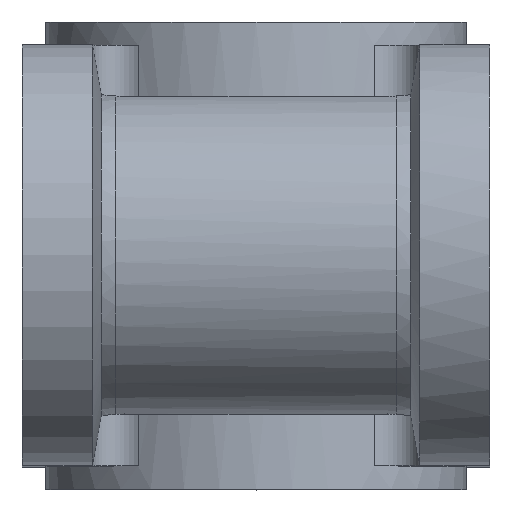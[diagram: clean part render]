
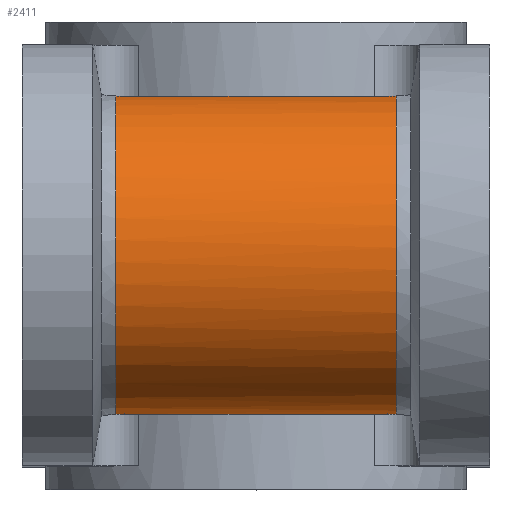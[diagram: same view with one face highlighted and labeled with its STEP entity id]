
A CAD part, top view. The second image highlights one B-rep face of the part: STEP entity #2411.
In plain terms, the highlighted cylindrical face has radius 2.75 mm (diameter 5.5 mm), a partial arc.
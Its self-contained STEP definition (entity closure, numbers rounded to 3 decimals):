
#143=B_SPLINE_CURVE_WITH_KNOTS('',3,(#3353,#3354,#3355,#3356),
 .UNSPECIFIED.,.F.,.F.,(4,4),(0.,0.),.UNSPECIFIED.);
#149=B_SPLINE_CURVE_WITH_KNOTS('',3,(#3393,#3394,#3395,#3396),
 .UNSPECIFIED.,.F.,.F.,(4,4),(0.,0.),.UNSPECIFIED.);
#151=B_SPLINE_CURVE_WITH_KNOTS('',3,(#3407,#3408,#3409,#3410),
 .UNSPECIFIED.,.F.,.F.,(4,4),(0.,0.),.UNSPECIFIED.);
#157=B_SPLINE_CURVE_WITH_KNOTS('',3,(#3448,#3449,#3450,#3451),
 .UNSPECIFIED.,.F.,.F.,(4,4),(0.,0.),.UNSPECIFIED.);
#204=B_SPLINE_CURVE_WITH_KNOTS('',3,(#4272,#4273,#4274,#4275,#4276,#4277,
#4278),.UNSPECIFIED.,.F.,.F.,(4,1,1,1,4),(0.031,0.195,
0.359,0.523,0.686),.UNSPECIFIED.);
#209=B_SPLINE_CURVE_WITH_KNOTS('',3,(#4300,#4301,#4302,#4303,#4304,#4305,
#4306),.UNSPECIFIED.,.F.,.F.,(4,1,1,1,4),(0.313,0.477,
0.641,0.805,0.969),.UNSPECIFIED.);
#274=CYLINDRICAL_SURFACE('',#2669,2.75);
#971=ORIENTED_EDGE('',*,*,#998,.F.);
#972=ORIENTED_EDGE('',*,*,#995,.T.);
#973=ORIENTED_EDGE('',*,*,#1008,.T.);
#974=ORIENTED_EDGE('',*,*,#1350,.F.);
#975=ORIENTED_EDGE('',*,*,#1011,.T.);
#976=ORIENTED_EDGE('',*,*,#1024,.T.);
#977=ORIENTED_EDGE('',*,*,#1021,.T.);
#978=ORIENTED_EDGE('',*,*,#1345,.F.);
#995=EDGE_CURVE('',#1354,#1353,#1593,.F.);
#998=EDGE_CURVE('',#1354,#1356,#143,.T.);
#1008=EDGE_CURVE('',#1353,#1362,#149,.T.);
#1011=EDGE_CURVE('',#1366,#1365,#151,.T.);
#1021=EDGE_CURVE('',#1374,#1373,#157,.T.);
#1024=EDGE_CURVE('',#1365,#1374,#1606,.T.);
#1345=EDGE_CURVE('',#1356,#1373,#204,.T.);
#1350=EDGE_CURVE('',#1366,#1362,#209,.T.);
#1353=VERTEX_POINT('',#3342);
#1354=VERTEX_POINT('',#3344);
#1356=VERTEX_POINT('',#3357);
#1362=VERTEX_POINT('',#3392);
#1365=VERTEX_POINT('',#3406);
#1366=VERTEX_POINT('',#3411);
#1373=VERTEX_POINT('',#3447);
#1374=VERTEX_POINT('',#3452);
#1593=LINE('',#3343,#1765);
#1606=LINE('',#3456,#1778);
#1765=VECTOR('',#2678,1000.);
#1778=VECTOR('',#2705,1000.);
#2080=EDGE_LOOP('',(#971,#972,#973,#974,#975,#976,#977,#978));
#2228=FACE_BOUND('',#2080,.T.);
#2411=ADVANCED_FACE('',(#2228),#274,.T.);
#2669=AXIS2_PLACEMENT_3D('',#4307,#3330,#3331);
#2678=DIRECTION('',(1.,0.,0.));
#2705=DIRECTION('',(1.,0.,0.));
#3330=DIRECTION('',(1.,0.,0.));
#3331=DIRECTION('',(0.,0.,1.));
#3342=CARTESIAN_POINT('',(-2.248,6.721,8.4));
#3343=CARTESIAN_POINT('',(-3.6,6.721,8.4));
#3344=CARTESIAN_POINT('',(2.251,6.721,8.4));
#3353=CARTESIAN_POINT('',(2.251,6.721,8.4));
#3354=CARTESIAN_POINT('',(2.303,6.721,8.4));
#3355=CARTESIAN_POINT('',(2.352,6.722,8.39));
#3356=CARTESIAN_POINT('',(2.4,6.725,8.371));
#3357=CARTESIAN_POINT('',(2.4,6.725,8.371));
#3392=CARTESIAN_POINT('',(-2.4,6.725,8.37));
#3393=CARTESIAN_POINT('',(-2.248,6.721,8.4));
#3394=CARTESIAN_POINT('',(-2.301,6.721,8.4));
#3395=CARTESIAN_POINT('',(-2.351,6.722,8.39));
#3396=CARTESIAN_POINT('',(-2.4,6.725,8.37));
#3406=CARTESIAN_POINT('',(-2.248,1.279,8.4));
#3407=CARTESIAN_POINT('',(-2.4,1.275,8.37));
#3408=CARTESIAN_POINT('',(-2.351,1.278,8.39));
#3409=CARTESIAN_POINT('',(-2.301,1.279,8.4));
#3410=CARTESIAN_POINT('',(-2.248,1.279,8.4));
#3411=CARTESIAN_POINT('',(-2.4,1.275,8.37));
#3447=CARTESIAN_POINT('',(2.4,1.275,8.371));
#3448=CARTESIAN_POINT('',(2.251,1.279,8.4));
#3449=CARTESIAN_POINT('',(2.303,1.279,8.4));
#3450=CARTESIAN_POINT('',(2.352,1.278,8.39));
#3451=CARTESIAN_POINT('',(2.4,1.275,8.371));
#3452=CARTESIAN_POINT('',(2.251,1.279,8.4));
#3456=CARTESIAN_POINT('',(-3.6,1.279,8.4));
#4272=CARTESIAN_POINT('',(2.4,6.725,8.371));
#4273=CARTESIAN_POINT('',(2.4,6.636,9.023));
#4274=CARTESIAN_POINT('',(2.4,5.971,10.257));
#4275=CARTESIAN_POINT('',(2.4,4.,10.997));
#4276=CARTESIAN_POINT('',(2.4,2.029,10.257));
#4277=CARTESIAN_POINT('',(2.4,1.364,9.023));
#4278=CARTESIAN_POINT('',(2.4,1.275,8.371));
#4300=CARTESIAN_POINT('',(-2.4,1.275,8.37));
#4301=CARTESIAN_POINT('',(-2.4,1.364,9.022));
#4302=CARTESIAN_POINT('',(-2.4,2.029,10.256));
#4303=CARTESIAN_POINT('',(-2.4,4.,10.997));
#4304=CARTESIAN_POINT('',(-2.4,5.971,10.256));
#4305=CARTESIAN_POINT('',(-2.4,6.636,9.022));
#4306=CARTESIAN_POINT('',(-2.4,6.725,8.37));
#4307=CARTESIAN_POINT('',(-3.6,4.,8.));
